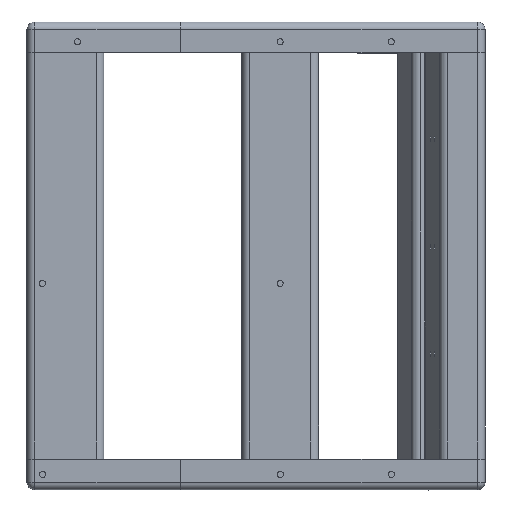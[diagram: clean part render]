
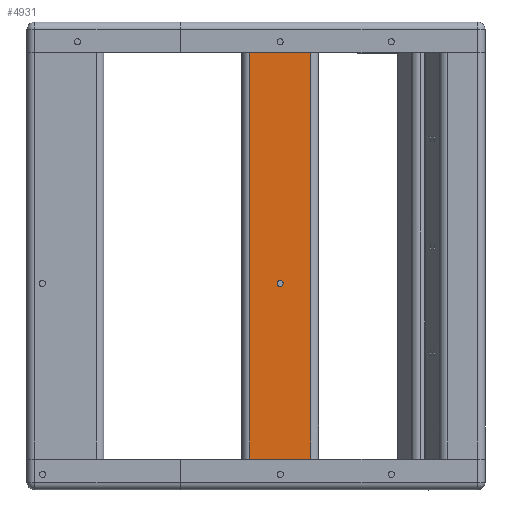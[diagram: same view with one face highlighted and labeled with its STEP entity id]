
A CAD part, top view. The second image highlights one B-rep face of the part: STEP entity #4931.
In plain terms, the highlighted planar face has unit normal (0, 0, 1).
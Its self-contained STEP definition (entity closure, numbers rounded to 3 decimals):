
#135=FACE_BOUND('',#950,.T.);
#278=PLANE('',#5496);
#553=FACE_OUTER_BOUND('',#949,.T.);
#949=EDGE_LOOP('',(#4210,#4211,#4212,#4213));
#950=EDGE_LOOP('',(#4214));
#1332=LINE('',#8329,#1706);
#1333=LINE('',#8332,#1707);
#1334=LINE('',#8334,#1708);
#1335=LINE('',#8335,#1709);
#1706=VECTOR('',#6842,10.);
#1707=VECTOR('',#6845,10.);
#1708=VECTOR('',#6846,10.);
#1709=VECTOR('',#6847,10.);
#2028=CIRCLE('',#5474,2.);
#2419=VERTEX_POINT('',#8287);
#2429=VERTEX_POINT('',#8322);
#2432=VERTEX_POINT('',#8327);
#2433=VERTEX_POINT('',#8331);
#2434=VERTEX_POINT('',#8333);
#3026=EDGE_CURVE('',#2419,#2419,#2028,.T.);
#3044=EDGE_CURVE('',#2432,#2429,#1332,.T.);
#3045=EDGE_CURVE('',#2433,#2432,#1333,.T.);
#3046=EDGE_CURVE('',#2434,#2433,#1334,.T.);
#3047=EDGE_CURVE('',#2429,#2434,#1335,.T.);
#4210=ORIENTED_EDGE('',*,*,#3044,.F.);
#4211=ORIENTED_EDGE('',*,*,#3045,.F.);
#4212=ORIENTED_EDGE('',*,*,#3046,.F.);
#4213=ORIENTED_EDGE('',*,*,#3047,.F.);
#4214=ORIENTED_EDGE('',*,*,#3026,.T.);
#4931=ADVANCED_FACE('',(#553,#135),#278,.T.);
#5474=AXIS2_PLACEMENT_3D('',#8288,#6792,#6793);
#5496=AXIS2_PLACEMENT_3D('',#8330,#6843,#6844);
#6792=DIRECTION('center_axis',(0.,0.,-1.));
#6793=DIRECTION('ref_axis',(1.,0.,0.));
#6842=DIRECTION('',(0.,-1.,0.));
#6843=DIRECTION('center_axis',(0.,0.,1.));
#6844=DIRECTION('ref_axis',(-1.,0.,0.));
#6845=DIRECTION('',(1.,0.,0.));
#6846=DIRECTION('',(0.,1.,0.));
#6847=DIRECTION('',(-1.,0.,0.));
#8287=CARTESIAN_POINT('',(162.942,-170.339,0.));
#8288=CARTESIAN_POINT('Origin',(164.942,-170.339,0.));
#8322=CARTESIAN_POINT('',(185.,-284.799,0.));
#8327=CARTESIAN_POINT('',(185.,-20.,0.));
#8329=CARTESIAN_POINT('',(185.,-20.,0.));
#8330=CARTESIAN_POINT('Origin',(190.,-20.,0.));
#8331=CARTESIAN_POINT('',(145.,-20.,0.));
#8332=CARTESIAN_POINT('',(170.,-20.,0.));
#8333=CARTESIAN_POINT('',(145.,-284.799,0.));
#8334=CARTESIAN_POINT('',(145.,-20.,0.));
#8335=CARTESIAN_POINT('',(170.,-284.799,0.));
